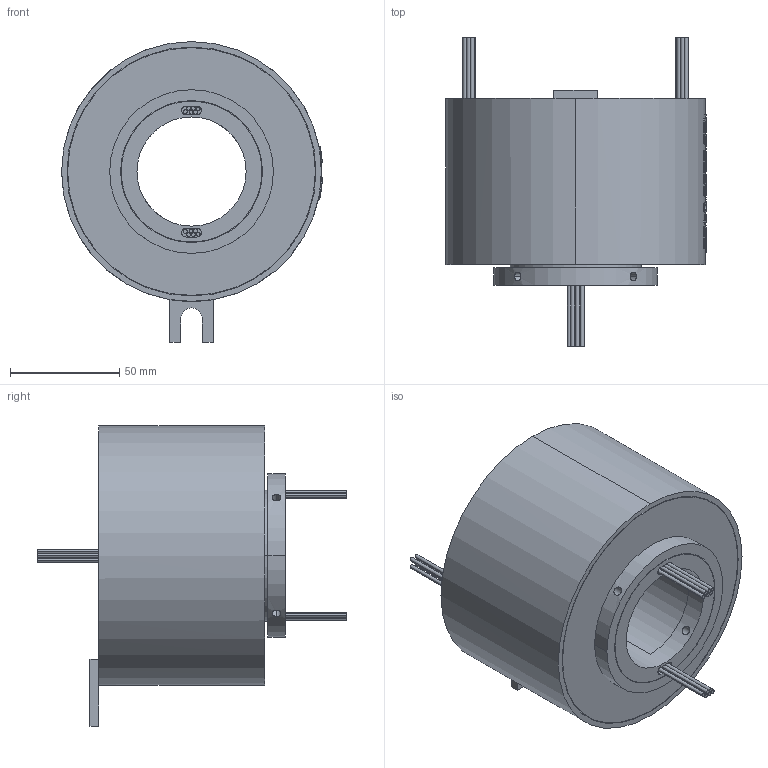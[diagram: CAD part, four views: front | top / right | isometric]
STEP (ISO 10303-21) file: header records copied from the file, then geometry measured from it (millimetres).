
FILE_DESCRIPTION(/* description */ (''),/* implementation_level */ '2;1');
FILE_NAME(/* name */ 'HD50119-1210_stp.stp',/* time_stamp */ '2025-01-19T09:54:08+08:00',/* author */ (''),/* organization */ (''),/* preprocessor_version */ 'ST-DEVELOPER v16.7',/* originating_system */ 'SIEMENS PLM Software NX 12.0',/* authorisation */ '');
FILE_SCHEMA (('AUTOMOTIVE_DESIGN { 1 0 10303 214 3 1 1 1 }'));
Length unit declared in the file: millimetre
Products named in the file (1): HX05089CE4B9b9py
Bounding box: 119.43 x 141.5 x 137.75 mm (x, y, z)
Volume: 719040.8 mm3; surface area: 77857.9 mm2
Topology: 1 solids, 1 shells, 483 faces, 1200 edges, 803 vertices
Faces by surface type: plane 244, cylinder 113, extrusion 93, bspline 29, torus 4
Entity records: 32135 total; most frequent: CARTESIAN_POINT 21619, ORIENTED_EDGE 2352, DIRECTION 1715, EDGE_CURVE 1176, VERTEX_POINT 791, B_SPLINE_CURVE_WITH_KNOTS 695, AXIS2_PLACEMENT_3D 686, EDGE_LOOP 591
